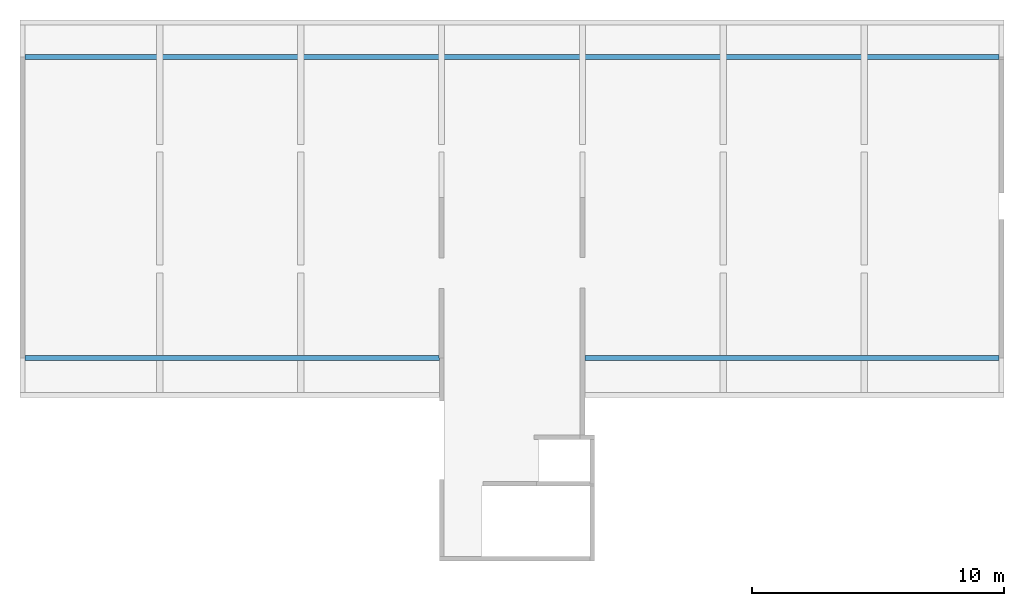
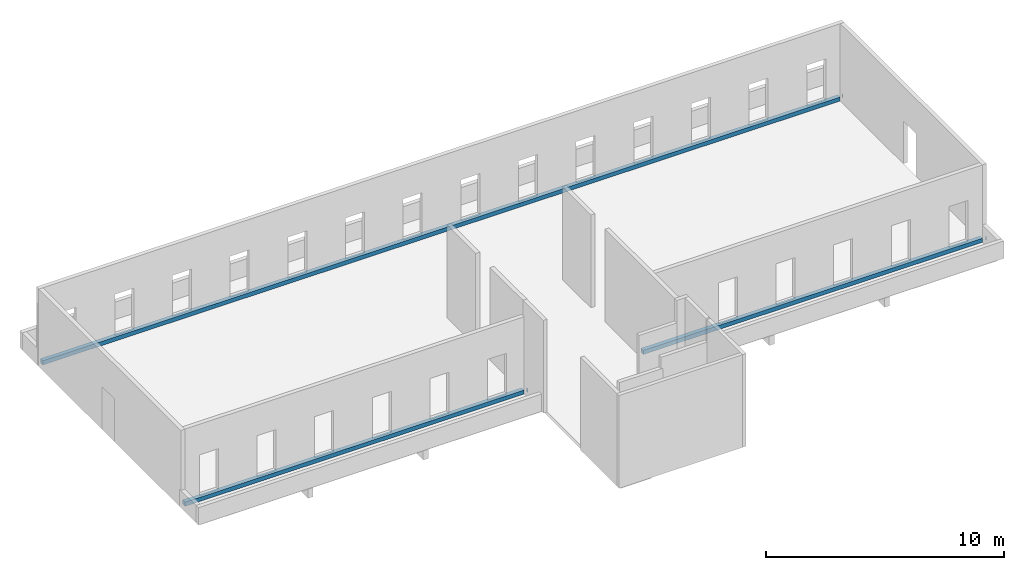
# One storey, part 3 of 3: 3 beams.
"""IFC2X3 building model written with IfcOpenShell, lengths in metres."""

from ifc_helpers import new_model, entity, si_unit, converted_unit, derived_unit, direction, frame, origin, place, context, subcontext, project, spatial, faceted_brep, material, element, save


model = new_model("IFC2X3")

# Units and contexts
model_context = context("Model", 3, precision=1e-05, world=origin(), true_north=direction((6.12303176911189e-17, 1.0)))
context_of_model = context(None, 3, precision=1e-05, world=origin(), true_north=direction((6.12303176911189e-17, 1.0)))
body_context = subcontext(model_context, "Body", "Model", "MODEL_VIEW")
ifc_project = project(units=[si_unit("LENGTHUNIT", "METRE"), si_unit("AREAUNIT", "SQUARE_METRE"), si_unit("VOLUMEUNIT", "CUBIC_METRE"), converted_unit("PLANEANGLEUNIT", "DEGREE", entity("IfcRatioMeasure", 0.0174532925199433), si_unit("PLANEANGLEUNIT", "RADIAN"), dimensions=[0, 0, 0, 0, 0, 0, 0]), si_unit("MASSUNIT", "GRAM", prefix="KILO"), si_unit("TIMEUNIT", "SECOND"), si_unit("FREQUENCYUNIT", "HERTZ"), si_unit("THERMODYNAMICTEMPERATUREUNIT", "DEGREE_CELSIUS"), derived_unit("THERMALTRANSMITTANCEUNIT", [(si_unit("MASSUNIT", "GRAM", prefix="KILO"), 1), (si_unit("THERMODYNAMICTEMPERATUREUNIT", "KELVIN"), -1), (si_unit("TIMEUNIT", "SECOND"), -3)]), derived_unit("VOLUMETRICFLOWRATEUNIT", [(si_unit("LENGTHUNIT", "METRE"), 3), (si_unit("TIMEUNIT", "SECOND"), -1)]), si_unit("ELECTRICCURRENTUNIT", "AMPERE"), si_unit("ELECTRICVOLTAGEUNIT", "VOLT"), si_unit("POWERUNIT", "WATT"), si_unit("FORCEUNIT", "NEWTON"), si_unit("ILLUMINANCEUNIT", "LUX"), si_unit("LUMINOUSFLUXUNIT", "LUMEN"), si_unit("LUMINOUSINTENSITYUNIT", "CANDELA"), si_unit("PRESSUREUNIT", "PASCAL")], contexts=[model_context, context_of_model])

# Site, building, storey
site_placement = place(None, origin())
site = spatial("IfcSite", under=ifc_project, at=site_placement, Name="Default", CompositionType="ELEMENT")
building_placement = place(site_placement, origin())
building = spatial("IfcBuilding", under=site, at=building_placement, Name="BATIMENT 1", CompositionType="ELEMENT")
storey_placement = place(building_placement, frame((0.0, 0.0, 7.03999999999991)))
storey = spatial("IfcBuildingStorey", under=building, at=storey_placement, Name="Niveau 2", CompositionType="ELEMENT", Elevation=7.03999999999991)

# Beams
ifc_material = material(Name="AEC Béton, C25/30")
beam_1_placement = place(storey_placement, frame((-19.5641655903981, 7.01253761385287, 0.0)))
element("IfcBeam", 1, at=beam_1_placement, inside=storey, material=ifc_material, Name="Béton - Poutre rectangulaire:BG PR 0.20 x 0.39  C25/30", ObjectType="Béton - Poutre rectangulaire:BG PR 0.20 x 0.39  C25/30", context=body_context, shape_type="Brep", body=[
    faceted_brep([(38.9205125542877, 0.10000000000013, 0.21), (38.9205125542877, 0.200000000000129, 0.21), (38.92, 0.200000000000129, 0.21), (38.92, 0.10000000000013, 0.21), (38.9205125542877, 0.200000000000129, 0.0), (38.92, 0.200000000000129, 0.0), (38.9205125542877, 0.10000000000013, 0.0), (38.92, 0.10000000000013, 0.0)], [[[0, 1, 2, 3]], [[1, 4, 5, 2]], [[4, 1, 0, 6]], [[6, 0, 3, 7]], [[3, 2, 5, 7]], [[4, 6, 7, 5]]]),
    faceted_brep([(0.000512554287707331, 0.0, 0.21), (0.000512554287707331, 0.0, 0.0), (38.7205125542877, 0.0, 0.0), (38.7205125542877, 0.0, 0.21), (0.000512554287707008, 0.10000000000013, 0.0), (0.0, 0.10000000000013, 0.0), (0.0, 0.200000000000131, 0.0), (38.72, 0.20000000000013, 0.0), (38.72, 0.10000000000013, 0.0), (38.7205125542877, 0.10000000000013, 0.0), (0.000512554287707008, 0.10000000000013, 0.210000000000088), (0.0, 0.10000000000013, 0.21), (38.7205125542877, 0.10000000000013, 0.21), (0.0, 0.200000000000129, 0.21), (38.72, 0.10000000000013, 0.210000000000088), (38.72, 0.20000000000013, 0.21)], [[[0, 1, 2, 3]], [[1, 4, 5, 6, 7, 8, 9, 2]], [[10, 4, 1, 0]], [[4, 10, 11, 5]], [[12, 3, 2, 9]], [[11, 13, 6, 5]], [[14, 8, 7, 15]], [[8, 14, 12, 9]], [[10, 0, 3, 12, 14, 15, 13, 11]], [[6, 13, 15, 7]]]),
])
beam_2_placement = place(storey_placement, frame((-19.5636530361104, -4.94746238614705, 0.0)))
element("IfcBeam", 2, at=beam_2_placement, inside=storey, material=ifc_material, Name="Béton - Poutre rectangulaire:BG PR 0.20 x 0.39  C25/30", ObjectType="Béton - Poutre rectangulaire:BG PR 0.20 x 0.39  C25/30", context=body_context, shape_type="Brep", body=[
    faceted_brep([(0.0, 0.200000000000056, 0.21), (0.0, 0.100000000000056, 0.21), (0.0, 0.0, 0.21), (16.46, 0.0, 0.21), (16.47, 0.0, 0.21), (16.47, 0.100000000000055, 0.21), (16.46, 0.100000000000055, 0.21), (16.46, 0.200000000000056, 0.21), (0.0, 0.0, 0.0), (16.47, 0.0, 0.0), (0.0, 0.200000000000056, 0.0), (16.46, 0.200000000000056, 0.0), (0.0, 0.100000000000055, 0.0), (16.46, 0.100000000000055, 0.0), (16.47, 0.100000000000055, 0.0)], [[[0, 1, 2, 3, 4, 5, 6, 7]], [[2, 8, 9, 4, 3]], [[10, 0, 7, 11]], [[8, 12, 10, 11, 13, 14, 9]], [[0, 10, 12, 8, 2, 1]], [[7, 6, 13, 11]], [[5, 4, 9, 14]], [[13, 6, 5, 14]]]),
    faceted_brep([(16.66, 0.0, 0.21), (16.66, 0.0, 0.0), (16.66, 0.100000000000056, 0.0), (16.66, 0.100000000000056, 0.21), (16.65, 0.100000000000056, 0.0), (16.65, 0.100000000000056, 0.21), (16.65, 0.0, 0.21), (16.65, 0.0, 0.0)], [[[0, 1, 2, 3]], [[3, 2, 4, 5]], [[6, 5, 4, 7]], [[0, 3, 5, 6]], [[1, 0, 6, 7]], [[2, 1, 7, 4]]]),
])
beam_3_placement = place(storey_placement, frame((2.69634696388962, -4.94746238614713, 0.0)))
element("IfcBeam", 3, at=beam_3_placement, inside=storey, material=ifc_material, Name="Béton - Poutre rectangulaire:BG PR 0.20 x 0.39  C25/30", ObjectType="Béton - Poutre rectangulaire:BG PR 0.20 x 0.39  C25/30", context=body_context, shape_type="Brep", body=[
    faceted_brep([(0.0, 0.200000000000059, 0.21), (0.0, 0.0, 0.21), (16.4594874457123, 0.0, 0.21), (16.4594874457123, 0.10000000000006, 0.21), (16.46, 0.10000000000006, 0.21), (16.46, 0.200000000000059, 0.21), (0.0, 0.0, 0.0), (16.4594874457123, 0.0, 0.0), (0.0, 0.200000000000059, 0.0), (16.46, 0.200000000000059, 0.0), (16.46, 0.100000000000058, 0.0), (16.4594874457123, 0.10000000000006, 0.0)], [[[0, 1, 2, 3, 4, 5]], [[1, 6, 7, 2]], [[8, 0, 5, 9]], [[1, 0, 8, 6]], [[5, 4, 10, 9]], [[11, 3, 2, 7]], [[3, 11, 10, 4]], [[6, 8, 9, 10, 11, 7]]]),
    faceted_brep([(16.66, 0.0, 0.21), (16.66, 0.0, 0.0), (16.66, 0.100000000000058, 0.0), (16.66, 0.100000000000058, 0.21), (16.6594874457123, 0.0, 0.0), (16.6594874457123, 0.100000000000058, 0.0), (16.6594874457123, 0.100000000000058, 0.21), (16.6594874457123, 0.0, 0.21)], [[[0, 1, 2, 3]], [[2, 1, 4, 5]], [[3, 2, 5, 6]], [[7, 6, 5, 4]], [[0, 3, 6, 7]], [[1, 0, 7, 4]]]),
])

save(model, "model.ifc")
